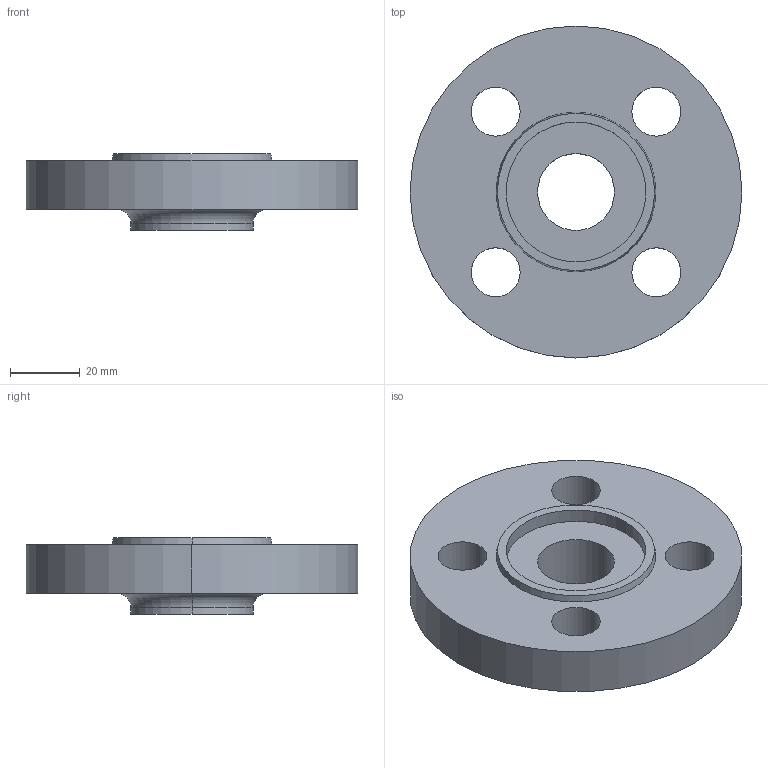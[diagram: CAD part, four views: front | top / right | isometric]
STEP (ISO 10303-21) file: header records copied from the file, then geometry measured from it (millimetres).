
FILE_DESCRIPTION (( 'STEP AP214' ), '1' );
FILE_NAME ('PN40 DN15 Type 12 - Type F Face.STEP', '2018-12-29T14:58:42', ( '' ), ( '' ), 'SwSTEP 2.0', 'SolidWorks 2019', '' );
FILE_SCHEMA (( 'AUTOMOTIVE_DESIGN' ));
Length unit declared in the file: millimetre
Products named in the file (1): PN40 DN15 Type 12 - Type F Face
Bounding box: 95 x 95 x 22 mm (x, y, z)
Volume: 88146.1 mm3; surface area: 21289.9 mm2
Topology: 1 solids, 1 shells, 25 faces, 58 edges, 38 vertices
Faces by surface type: cylinder 16, plane 5, torus 2, cone 2
Entity records: 790 total; most frequent: DIRECTION 150, CARTESIAN_POINT 122, ORIENTED_EDGE 116, AXIS2_PLACEMENT_3D 66, EDGE_CURVE 58, CIRCLE 40, VERTEX_POINT 38, EDGE_LOOP 38
